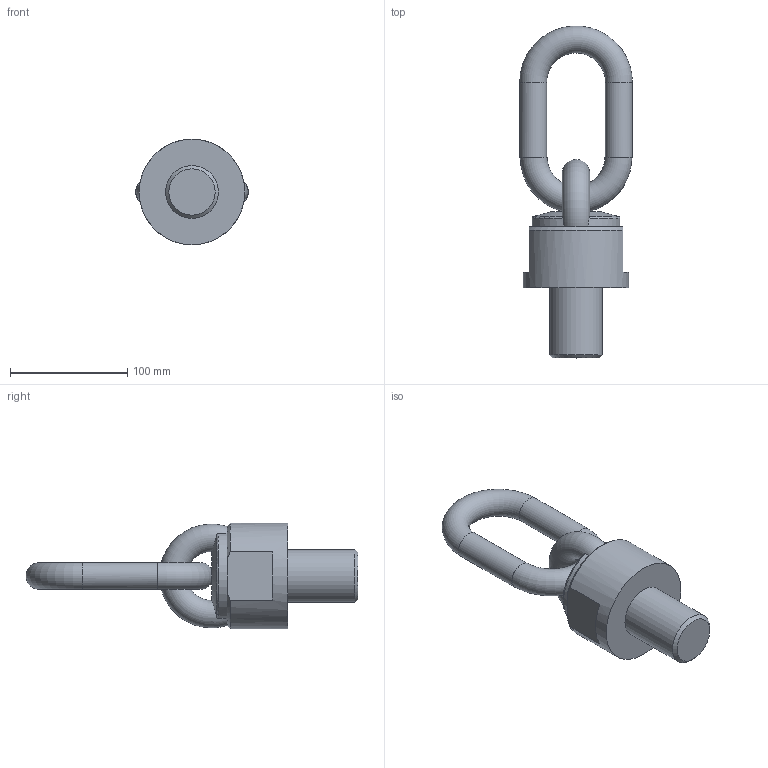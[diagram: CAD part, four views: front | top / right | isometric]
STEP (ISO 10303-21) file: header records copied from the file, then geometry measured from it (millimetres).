
FILE_DESCRIPTION( ( 'STEP AP203' ), '1' );
FILE_NAME( 'p:/temp/worker_23/temp/app_54_0201906261456329160713510e898ce_000000_00_00_000000/format_4/C800X1254560.stp', '2019-06-26T12:56:36', ( '' ), ( '' ), ' ', 'PARTsolutions', ' ' );
FILE_SCHEMA( ( 'CONFIG_CONTROL_DESIGN' ) );
Length unit declared in the file: millimetre
Products named in the file (1): _C800X1254560
Bounding box: 96 x 282.93 x 90 mm (x, y, z)
Volume: 658001.3 mm3; surface area: 69720.2 mm2
Topology: 1 solids, 1 shells, 28 faces, 70 edges, 44 vertices
Faces by surface type: plane 12, cylinder 6, torus 5, cone 5
Full cylindrical faces by diameter (mm): 23 x2, 45 x1, 90 x1
Entity records: 1190 total; most frequent: CARTESIAN_POINT 540, DIRECTION 122, ORIENTED_EDGE 116, EDGE_CURVE 58, AXIS2_PLACEMENT_3D 57, EDGE_LOOP 42, VERTEX_POINT 41, FACE_OUTER_BOUND 35
